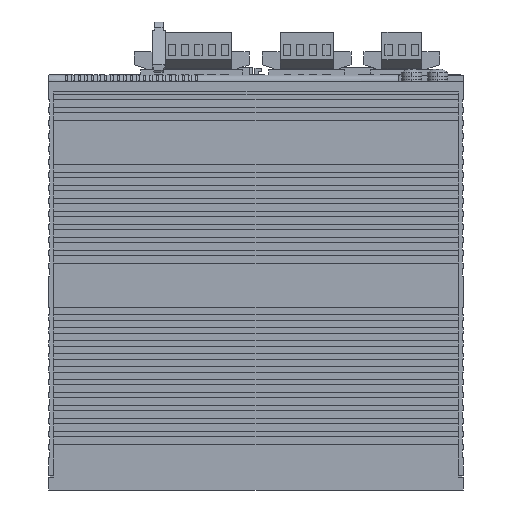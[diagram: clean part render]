
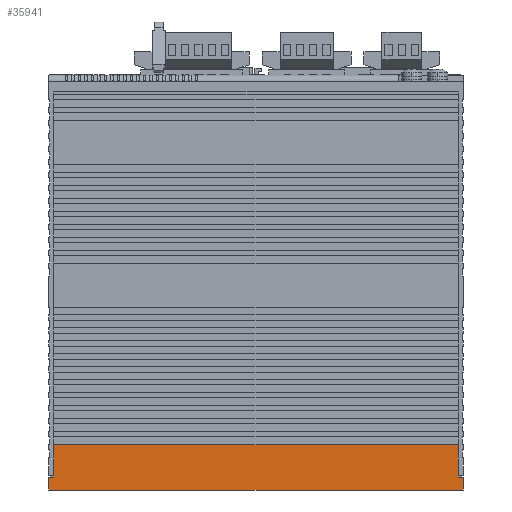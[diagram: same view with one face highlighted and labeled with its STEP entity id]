
A CAD part, left-side view. The second image highlights one B-rep face of the part: STEP entity #35941.
In plain terms, the highlighted planar face has unit normal (-1, 0, 0).
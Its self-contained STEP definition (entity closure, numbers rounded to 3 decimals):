
#2394 = ORIENTED_EDGE ( 'NONE', *, *, #47885, .F. ) ;
#5156 = DIRECTION ( 'NONE',  ( 0., 0., -1. ) ) ;
#7380 = LINE ( 'NONE', #18786, #104687 ) ;
#10983 = CARTESIAN_POINT ( 'NONE',  ( -50., -158., 5.6 ) ) ;
#11581 = ORIENTED_EDGE ( 'NONE', *, *, #112744, .T. ) ;
#12307 = CARTESIAN_POINT ( 'NONE',  ( -50., -158., 5. ) ) ;
#12704 = ORIENTED_EDGE ( 'NONE', *, *, #25979, .F. ) ;
#18786 = CARTESIAN_POINT ( 'NONE',  ( -50., -159.5, 5. ) ) ;
#19475 = DIRECTION ( 'NONE',  ( 0., 0., 1. ) ) ;
#20175 = LINE ( 'NONE', #133705, #37314 ) ;
#23698 = DIRECTION ( 'NONE',  ( 0., -1., 0. ) ) ;
#24841 = VECTOR ( 'NONE', #63197, 1000. ) ;
#25925 = ORIENTED_EDGE ( 'NONE', *, *, #73946, .F. ) ;
#25979 = EDGE_CURVE ( 'NONE', #91577, #94523, #70936, .T. ) ;
#26788 = VECTOR ( 'NONE', #97800, 1000. ) ;
#29801 = DIRECTION ( 'NONE',  ( 0., -1., 0. ) ) ;
#31373 = CARTESIAN_POINT ( 'NONE',  ( -50., 0., 5. ) ) ;
#34402 = EDGE_LOOP ( 'NONE', ( #61996, #65672, #2394, #50610, #25925, #11581, #97775, #12704, #59447, #38018 ) ) ;
#35941 = ADVANCED_FACE ( 'NONE', ( #65824 ), #117114, .F. ) ;
#37314 = VECTOR ( 'NONE', #112638, 1000. ) ;
#38018 = ORIENTED_EDGE ( 'NONE', *, *, #129701, .F. ) ;
#39300 = CARTESIAN_POINT ( 'NONE',  ( -50., -2., 17.5 ) ) ;
#40416 = VERTEX_POINT ( 'NONE', #10983 ) ;
#40490 = EDGE_CURVE ( 'NONE', #120524, #40416, #105176, .T. ) ;
#40580 = VECTOR ( 'NONE', #94583, 1000. ) ;
#40602 = LINE ( 'NONE', #67098, #112295 ) ;
#41324 = CARTESIAN_POINT ( 'NONE',  ( -50., 0., 160. ) ) ;
#43628 = LINE ( 'NONE', #91556, #128888 ) ;
#46337 = CARTESIAN_POINT ( 'NONE',  ( -50., -2., 5. ) ) ;
#47344 = CARTESIAN_POINT ( 'NONE',  ( -50., -158., 17.5 ) ) ;
#47885 = EDGE_CURVE ( 'NONE', #60211, #81589, #20175, .T. ) ;
#49896 = LINE ( 'NONE', #71954, #116310 ) ;
#50354 = CARTESIAN_POINT ( 'NONE',  ( -50., -2., 5.6 ) ) ;
#50610 = ORIENTED_EDGE ( 'NONE', *, *, #99157, .F. ) ;
#59447 = ORIENTED_EDGE ( 'NONE', *, *, #91479, .F. ) ;
#59843 = VERTEX_POINT ( 'NONE', #88988 ) ;
#60211 = VERTEX_POINT ( 'NONE', #50354 ) ;
#61996 = ORIENTED_EDGE ( 'NONE', *, *, #40490, .F. ) ;
#63197 = DIRECTION ( 'NONE',  ( 0., 0., -1. ) ) ;
#63624 = CARTESIAN_POINT ( 'NONE',  ( -50., -160., 5. ) ) ;
#65672 = ORIENTED_EDGE ( 'NONE', *, *, #133252, .F. ) ;
#65824 = FACE_OUTER_BOUND ( 'NONE', #34402, .T. ) ;
#66324 = CARTESIAN_POINT ( 'NONE',  ( -50., -158., 160. ) ) ;
#67098 = CARTESIAN_POINT ( 'NONE',  ( -50., 0., 0. ) ) ;
#69589 = LINE ( 'NONE', #39300, #40580 ) ;
#70936 = LINE ( 'NONE', #107042, #24841 ) ;
#71954 = CARTESIAN_POINT ( 'NONE',  ( -50., -2., 5. ) ) ;
#73946 = EDGE_CURVE ( 'NONE', #98441, #82275, #84937, .T. ) ;
#74101 = EDGE_CURVE ( 'NONE', #59843, #94523, #40602, .T. ) ;
#74746 = VECTOR ( 'NONE', #130190, 1000. ) ;
#81589 = VERTEX_POINT ( 'NONE', #131027 ) ;
#82275 = VERTEX_POINT ( 'NONE', #46337 ) ;
#84937 = LINE ( 'NONE', #31373, #120813 ) ;
#88988 = CARTESIAN_POINT ( 'NONE',  ( -50., 0., 0. ) ) ;
#91479 = EDGE_CURVE ( 'NONE', #119546, #91577, #7380, .T. ) ;
#91556 = CARTESIAN_POINT ( 'NONE',  ( -50., -158., 5. ) ) ;
#91577 = VERTEX_POINT ( 'NONE', #63624 ) ;
#94523 = VERTEX_POINT ( 'NONE', #119473 ) ;
#94583 = DIRECTION ( 'NONE',  ( 0., -1., 0. ) ) ;
#96185 = DIRECTION ( 'NONE',  ( 0., -1., 0. ) ) ;
#97775 = ORIENTED_EDGE ( 'NONE', *, *, #74101, .T. ) ;
#97800 = DIRECTION ( 'NONE',  ( 0., 0., -1. ) ) ;
#98441 = VERTEX_POINT ( 'NONE', #111714 ) ;
#99157 = EDGE_CURVE ( 'NONE', #82275, #60211, #49896, .T. ) ;
#104687 = VECTOR ( 'NONE', #29801, 1000. ) ;
#105176 = LINE ( 'NONE', #66324, #26788 ) ;
#107042 = CARTESIAN_POINT ( 'NONE',  ( -50., -160., 160. ) ) ;
#111714 = CARTESIAN_POINT ( 'NONE',  ( -50., 0., 5. ) ) ;
#112295 = VECTOR ( 'NONE', #23698, 1000. ) ;
#112638 = DIRECTION ( 'NONE',  ( 0., 0., 1. ) ) ;
#112744 = EDGE_CURVE ( 'NONE', #98441, #59843, #129389, .T. ) ;
#116310 = VECTOR ( 'NONE', #19475, 1000. ) ;
#117114 = PLANE ( 'NONE',  #121940 ) ;
#118714 = CARTESIAN_POINT ( 'NONE',  ( -50., 0., 160. ) ) ;
#119473 = CARTESIAN_POINT ( 'NONE',  ( -50., -160., 0. ) ) ;
#119546 = VERTEX_POINT ( 'NONE', #12307 ) ;
#120524 = VERTEX_POINT ( 'NONE', #47344 ) ;
#120813 = VECTOR ( 'NONE', #96185, 1000. ) ;
#121940 = AXIS2_PLACEMENT_3D ( 'NONE', #41324, #128133, #139568 ) ;
#128133 = DIRECTION ( 'NONE',  ( 1., 0., 0. ) ) ;
#128888 = VECTOR ( 'NONE', #5156, 1000. ) ;
#129389 = LINE ( 'NONE', #118714, #74746 ) ;
#129701 = EDGE_CURVE ( 'NONE', #40416, #119546, #43628, .T. ) ;
#130190 = DIRECTION ( 'NONE',  ( 0., 0., -1. ) ) ;
#131027 = CARTESIAN_POINT ( 'NONE',  ( -50., -2., 17.5 ) ) ;
#133252 = EDGE_CURVE ( 'NONE', #81589, #120524, #69589, .T. ) ;
#133705 = CARTESIAN_POINT ( 'NONE',  ( -50., -2., 160. ) ) ;
#139568 = DIRECTION ( 'NONE',  ( 0., 0., 1. ) ) ;
